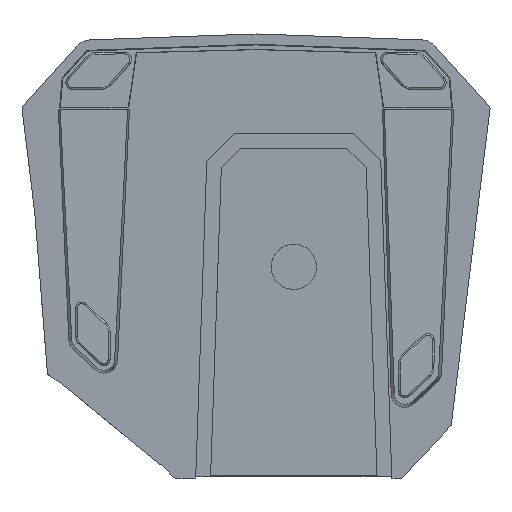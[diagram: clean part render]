
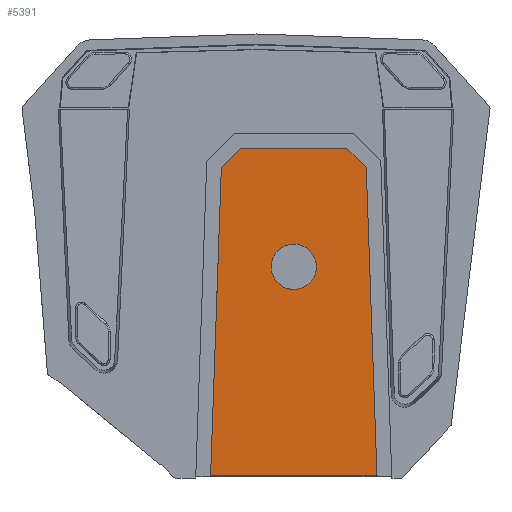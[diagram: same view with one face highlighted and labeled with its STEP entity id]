
A CAD part, front view. The second image highlights one B-rep face of the part: STEP entity #5391.
In plain terms, the highlighted planar face has unit normal (0, -0.999, -0.052).
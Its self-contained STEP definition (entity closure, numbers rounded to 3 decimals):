
#81 = CARTESIAN_POINT ( 'NONE',  ( -35.401, -290.531, -290.904 ) ) ;
#99 = ORIENTED_EDGE ( 'NONE', *, *, #7691, .T. ) ;
#239 =( BOUNDED_CURVE ( )  B_SPLINE_CURVE ( 3, ( #1996, #9369, #7211, #2923 ),
 .UNSPECIFIED., .F., .F. ) 
 B_SPLINE_CURVE_WITH_KNOTS ( ( 4, 4 ),
 ( 0., 0.5 ),
 .UNSPECIFIED. ) 
 CURVE ( )  GEOMETRIC_REPRESENTATION_ITEM ( )  RATIONAL_B_SPLINE_CURVE ( ( 1., 0.333, 0.333, 1. ) ) 
 REPRESENTATION_ITEM ( '' )  );
#586 = LINE ( 'NONE', #6414, #8070 ) ;
#971 = VERTEX_POINT ( 'NONE', #3704 ) ;
#980 = ORIENTED_EDGE ( 'NONE', *, *, #5811, .F. ) ;
#1054 = EDGE_LOOP ( 'NONE', ( #980, #2807, #7216, #99, #8038, #6037 ) ) ;
#1101 = VERTEX_POINT ( 'NONE', #8210 ) ;
#1244 = CARTESIAN_POINT ( 'NONE',  ( -11.901, -304.146, -31.117 ) ) ;
#1284 = CARTESIAN_POINT ( 'NONE',  ( -26.851, -303.363, -46.068 ) ) ;
#1342 = DIRECTION ( 'NONE',  ( -0.707, 0.037, -0.707 ) ) ;
#1350 = CARTESIAN_POINT ( 'NONE',  ( -11.901, -304.146, -31.117 ) ) ;
#1485 = LINE ( 'NONE', #81, #9004 ) ;
#1652 = CARTESIAN_POINT ( 'NONE',  ( 29.28, -298.42, -140.379 ) ) ;
#1655 = CARTESIAN_POINT ( 'NONE',  ( 0., -290.867, -284.5 ) ) ;
#1765 = ORIENTED_EDGE ( 'NONE', *, *, #7214, .F. ) ;
#1829 = LINE ( 'NONE', #1655, #4288 ) ;
#1909 = VERTEX_POINT ( 'NONE', #1244 ) ;
#1996 = CARTESIAN_POINT ( 'NONE',  ( 29.28, -300.254, -105.379 ) ) ;
#2118 =( BOUNDED_CURVE ( )  B_SPLINE_CURVE ( 3, ( #1652, #7453, #8925, #5930 ),
 .UNSPECIFIED., .F., .F. ) 
 B_SPLINE_CURVE_WITH_KNOTS ( ( 4, 4 ),
 ( 0.5, 1. ),
 .UNSPECIFIED. ) 
 CURVE ( )  GEOMETRIC_REPRESENTATION_ITEM ( )  RATIONAL_B_SPLINE_CURVE ( ( 1., 0.333, 0.333, 1. ) ) 
 REPRESENTATION_ITEM ( '' )  );
#2386 = DIRECTION ( 'NONE',  ( -1., 0., 0. ) ) ;
#2469 = EDGE_CURVE ( 'NONE', #1101, #6551, #586, .T. ) ;
#2545 = CARTESIAN_POINT ( 'NONE',  ( 0., -304.939, -15.981 ) ) ;
#2623 = VECTOR ( 'NONE', #5547, 1000. ) ;
#2807 = ORIENTED_EDGE ( 'NONE', *, *, #2469, .T. ) ;
#2923 = CARTESIAN_POINT ( 'NONE',  ( 29.28, -298.42, -140.379 ) ) ;
#2972 = FACE_OUTER_BOUND ( 'NONE', #1054, .T. ) ;
#2981 = EDGE_CURVE ( 'NONE', #971, #5646, #2118, .T. ) ;
#3582 = ORIENTED_EDGE ( 'NONE', *, *, #2981, .F. ) ;
#3704 = CARTESIAN_POINT ( 'NONE',  ( 29.28, -298.42, -140.379 ) ) ;
#3816 = EDGE_CURVE ( 'NONE', #1909, #8370, #6864, .T. ) ;
#3997 = VECTOR ( 'NONE', #1342, 1000. ) ;
#4027 = EDGE_CURVE ( 'NONE', #6551, #8336, #6145, .T. ) ;
#4288 = VECTOR ( 'NONE', #2386, 1000. ) ;
#4620 = VERTEX_POINT ( 'NONE', #6082 ) ;
#4633 = FACE_BOUND ( 'NONE', #4854, .T. ) ;
#4854 = EDGE_LOOP ( 'NONE', ( #3582, #1765 ) ) ;
#5063 = DIRECTION ( 'NONE',  ( -0.035, 0.052, -0.998 ) ) ;
#5391 = ADVANCED_FACE ( 'NONE', ( #4633, #2972 ), #6127, .T. ) ;
#5547 = DIRECTION ( 'NONE',  ( -1., 0., 0. ) ) ;
#5646 = VERTEX_POINT ( 'NONE', #7293 ) ;
#5811 = EDGE_CURVE ( 'NONE', #1101, #4620, #1829, .T. ) ;
#5930 = CARTESIAN_POINT ( 'NONE',  ( 29.28, -300.254, -105.379 ) ) ;
#6037 = ORIENTED_EDGE ( 'NONE', *, *, #7760, .T. ) ;
#6082 = CARTESIAN_POINT ( 'NONE',  ( -35.178, -290.867, -284.5 ) ) ;
#6093 = CARTESIAN_POINT ( 'NONE',  ( 70.431, -304.146, -31.117 ) ) ;
#6110 = CARTESIAN_POINT ( 'NONE',  ( 85.393, -303.362, -46.079 ) ) ;
#6127 = PLANE ( 'NONE',  #8666 ) ;
#6145 = LINE ( 'NONE', #7264, #6367 ) ;
#6367 = VECTOR ( 'NONE', #8786, 1000. ) ;
#6414 = CARTESIAN_POINT ( 'NONE',  ( 85.393, -303.362, -46.079 ) ) ;
#6551 = VERTEX_POINT ( 'NONE', #6110 ) ;
#6864 = LINE ( 'NONE', #1284, #3997 ) ;
#7174 = DIRECTION ( 'NONE',  ( -0.035, -0.052, 0.998 ) ) ;
#7211 = CARTESIAN_POINT ( 'NONE',  ( -5.72, -298.42, -140.379 ) ) ;
#7214 = EDGE_CURVE ( 'NONE', #5646, #971, #239, .T. ) ;
#7216 = ORIENTED_EDGE ( 'NONE', *, *, #4027, .T. ) ;
#7264 = CARTESIAN_POINT ( 'NONE',  ( 70.431, -304.146, -31.117 ) ) ;
#7293 = CARTESIAN_POINT ( 'NONE',  ( 29.28, -300.254, -105.379 ) ) ;
#7453 = CARTESIAN_POINT ( 'NONE',  ( 64.28, -298.42, -140.379 ) ) ;
#7691 = EDGE_CURVE ( 'NONE', #8336, #1909, #7853, .T. ) ;
#7760 = EDGE_CURVE ( 'NONE', #8370, #4620, #1485, .T. ) ;
#7853 = LINE ( 'NONE', #1350, #2623 ) ;
#7874 = CARTESIAN_POINT ( 'NONE',  ( -26.851, -303.363, -46.068 ) ) ;
#8038 = ORIENTED_EDGE ( 'NONE', *, *, #3816, .T. ) ;
#8070 = VECTOR ( 'NONE', #7174, 1000. ) ;
#8210 = CARTESIAN_POINT ( 'NONE',  ( 93.719, -290.867, -284.5 ) ) ;
#8336 = VERTEX_POINT ( 'NONE', #6093 ) ;
#8370 = VERTEX_POINT ( 'NONE', #7874 ) ;
#8379 = DIRECTION ( 'NONE',  ( 0., -0.999, -0.052 ) ) ;
#8666 = AXIS2_PLACEMENT_3D ( 'NONE', #2545, #8379, #9030 ) ;
#8786 = DIRECTION ( 'NONE',  ( -0.707, -0.037, 0.707 ) ) ;
#8925 = CARTESIAN_POINT ( 'NONE',  ( 64.28, -300.254, -105.379 ) ) ;
#9004 = VECTOR ( 'NONE', #5063, 1000. ) ;
#9030 = DIRECTION ( 'NONE',  ( 0., 0.052, -0.999 ) ) ;
#9369 = CARTESIAN_POINT ( 'NONE',  ( -5.72, -300.254, -105.379 ) ) ;
